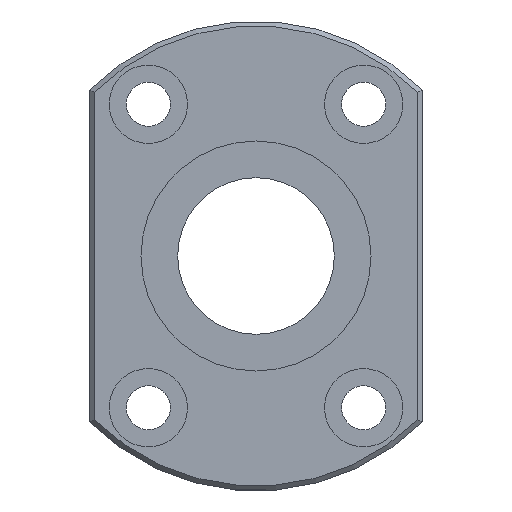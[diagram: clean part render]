
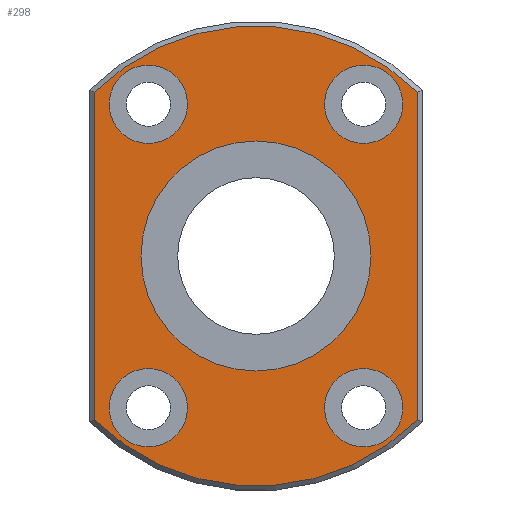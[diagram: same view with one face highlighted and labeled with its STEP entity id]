
A CAD part, left-side view. The second image highlights one B-rep face of the part: STEP entity #298.
In plain terms, the highlighted planar face has unit normal (-1, 0, 0).
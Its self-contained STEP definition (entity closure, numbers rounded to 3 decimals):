
#59=CARTESIAN_POINT('',(0.0,16.5,-16.733));
#60=VERTEX_POINT('',#59);
#68=CARTESIAN_POINT('',(0.0,16.5,16.733));
#69=VERTEX_POINT('',#68);
#70=CARTESIAN_POINT('',(0.0,16.5,-16.733));
#71=DIRECTION('',(0.0,0.0,1.0));
#72=VECTOR('',#71,33.466);
#73=LINE('',#70,#72);
#74=EDGE_CURVE('',#60,#69,#73,.T.);
#101=CARTESIAN_POINT('',(0.0,-16.5,16.733));
#102=VERTEX_POINT('',#101);
#103=CARTESIAN_POINT('',(0.0,0.0,0.0));
#104=DIRECTION('',(1.0,0.0,0.0));
#105=DIRECTION('',(0.0,0.0,1.0));
#106=AXIS2_PLACEMENT_3D('',#103,#104,#105);
#107=CIRCLE('',#106,23.5);
#108=EDGE_CURVE('',#69,#102,#107,.T.);
#134=CARTESIAN_POINT('',(0.0,-16.5,-16.733));
#135=VERTEX_POINT('',#134);
#136=CARTESIAN_POINT('',(0.0,-16.5,16.733));
#137=DIRECTION('',(0.0,0.0,-1.0));
#138=VECTOR('',#137,33.466);
#139=LINE('',#136,#138);
#140=EDGE_CURVE('',#102,#135,#139,.T.);
#165=CARTESIAN_POINT('',(0.0,0.0,0.0));
#166=DIRECTION('',(1.0,0.0,0.0));
#167=DIRECTION('',(0.0,0.0,-1.0));
#168=AXIS2_PLACEMENT_3D('',#165,#166,#167);
#169=CIRCLE('',#168,23.5);
#170=EDGE_CURVE('',#135,#60,#169,.T.);
#232=CARTESIAN_POINT('',(0.0,0.0,12.875));
#233=DIRECTION('',(-1.0,0.0,0.0));
#234=DIRECTION('',(0.0,0.0,1.0));
#235=AXIS2_PLACEMENT_3D('',#232,#233,#234);
#236=PLANE('',#235);
#237=ORIENTED_EDGE('',*,*,#74,.F.);
#238=ORIENTED_EDGE('',*,*,#170,.F.);
#239=ORIENTED_EDGE('',*,*,#140,.F.);
#240=ORIENTED_EDGE('',*,*,#108,.F.);
#241=EDGE_LOOP('',(#237,#238,#239,#240));
#242=FACE_OUTER_BOUND('',#241,.T.);
#243=CARTESIAN_POINT('',(0.0,0.0,11.75));
#244=VERTEX_POINT('',#243);
#245=CARTESIAN_POINT('',(0.0,0.0,0.0));
#246=DIRECTION('',(-1.0,0.0,0.0));
#247=DIRECTION('',(0.0,0.0,1.0));
#248=AXIS2_PLACEMENT_3D('',#245,#246,#247);
#249=CIRCLE('',#248,11.75);
#250=EDGE_CURVE('',#244,#244,#249,.T.);
#251=ORIENTED_EDGE('',*,*,#250,.F.);
#252=EDGE_LOOP('',(#251));
#253=FACE_BOUND('',#252,.T.);
#254=CARTESIAN_POINT('',(0.0,-7.,-15.5));
#255=VERTEX_POINT('',#254);
#256=CARTESIAN_POINT('',(0.0,-11.,-15.5));
#257=DIRECTION('',(1.0,0.0,0.0));
#258=DIRECTION('',(0.0,1.0,0.0));
#259=AXIS2_PLACEMENT_3D('',#256,#257,#258);
#260=CIRCLE('',#259,4.0);
#261=EDGE_CURVE('',#255,#255,#260,.T.);
#262=ORIENTED_EDGE('',*,*,#261,.T.);
#263=EDGE_LOOP('',(#262));
#264=FACE_BOUND('',#263,.T.);
#265=CARTESIAN_POINT('',(0.0,-7.,15.5));
#266=VERTEX_POINT('',#265);
#267=CARTESIAN_POINT('',(0.0,-11.,15.5));
#268=DIRECTION('',(1.0,0.0,0.0));
#269=DIRECTION('',(0.0,1.0,0.0));
#270=AXIS2_PLACEMENT_3D('',#267,#268,#269);
#271=CIRCLE('',#270,4.0);
#272=EDGE_CURVE('',#266,#266,#271,.T.);
#273=ORIENTED_EDGE('',*,*,#272,.T.);
#274=EDGE_LOOP('',(#273));
#275=FACE_BOUND('',#274,.T.);
#276=CARTESIAN_POINT('',(0.0,15.,-15.5));
#277=VERTEX_POINT('',#276);
#278=CARTESIAN_POINT('',(0.0,11.,-15.5));
#279=DIRECTION('',(1.0,0.0,0.0));
#280=DIRECTION('',(0.0,1.0,0.0));
#281=AXIS2_PLACEMENT_3D('',#278,#279,#280);
#282=CIRCLE('',#281,4.0);
#283=EDGE_CURVE('',#277,#277,#282,.T.);
#284=ORIENTED_EDGE('',*,*,#283,.T.);
#285=EDGE_LOOP('',(#284));
#286=FACE_BOUND('',#285,.T.);
#287=CARTESIAN_POINT('',(0.0,15.,15.5));
#288=VERTEX_POINT('',#287);
#289=CARTESIAN_POINT('',(0.0,11.,15.5));
#290=DIRECTION('',(1.0,0.0,0.0));
#291=DIRECTION('',(0.0,1.0,0.0));
#292=AXIS2_PLACEMENT_3D('',#289,#290,#291);
#293=CIRCLE('',#292,4.0);
#294=EDGE_CURVE('',#288,#288,#293,.T.);
#295=ORIENTED_EDGE('',*,*,#294,.T.);
#296=EDGE_LOOP('',(#295));
#297=FACE_BOUND('',#296,.T.);
#298=ADVANCED_FACE('',(#242,#253,#264,#275,#286,#297),#236,.T.);
